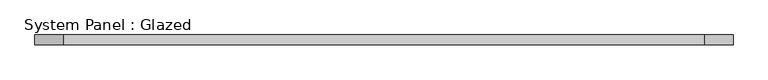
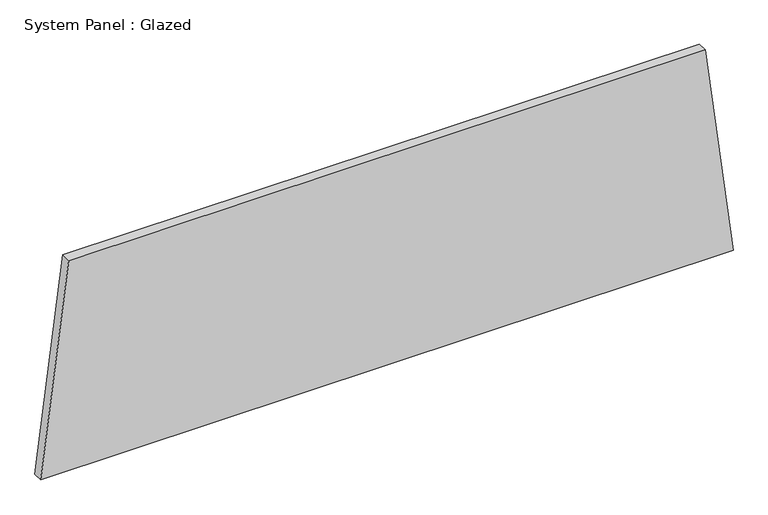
"""IFC4 building model written with IfcOpenShell, lengths in millimetres: plate geometry, System Panel : Glazed."""

from ifc_helpers import new_model, si_unit, frame, origin, place, context, project, spatial, polyline, outline, extrude, source, transform, mapped, element, save


def system_panel_glazed_7c909565(model_context):
    return source(origin(), model_context, "Body", "SweptSolid", [
        extrude(outline(polyline([(0.0, -884.6548418), (0.0, 884.6548418), (566.7196715, 813.2618391), (566.7196715, -813.2618391), (0.0, -884.6548418)])), frame((0.0, 19.05, 0.0), z_axis=(0.0, 1.0, 0.0), x_axis=(0.0, 0.0, 1.0)), (0.0, 0.0, 1.0), 25.4),
    ])


if __name__ == "__main__":
    model = new_model("IFC4")
    model_context = context("Model", 3, world=origin())
    ifc_project = project(units=[si_unit("LENGTHUNIT", "METRE", prefix="MILLI")], contexts=[model_context])
    site = spatial("IfcSite", under=ifc_project)
    building = spatial("IfcBuilding", under=site)
    placement = place(None, origin())
    system_panel_glazed_shape = system_panel_glazed_7c909565(model_context)
    element("IfcPlate", 1, ObjectType="System Panel : Glazed", at=placement, inside=building, context=model_context, shape_type="MappedRepresentation", body=[
        mapped(system_panel_glazed_shape, transform((0.0, 0.0, 0.0), x_axis=(1.0, 0.0, 0.0), y_axis=(0.0, 1.0, 0.0), z_axis=(0.0, 0.0, 1.0))),
    ])
    save(model, "model.ifc")
